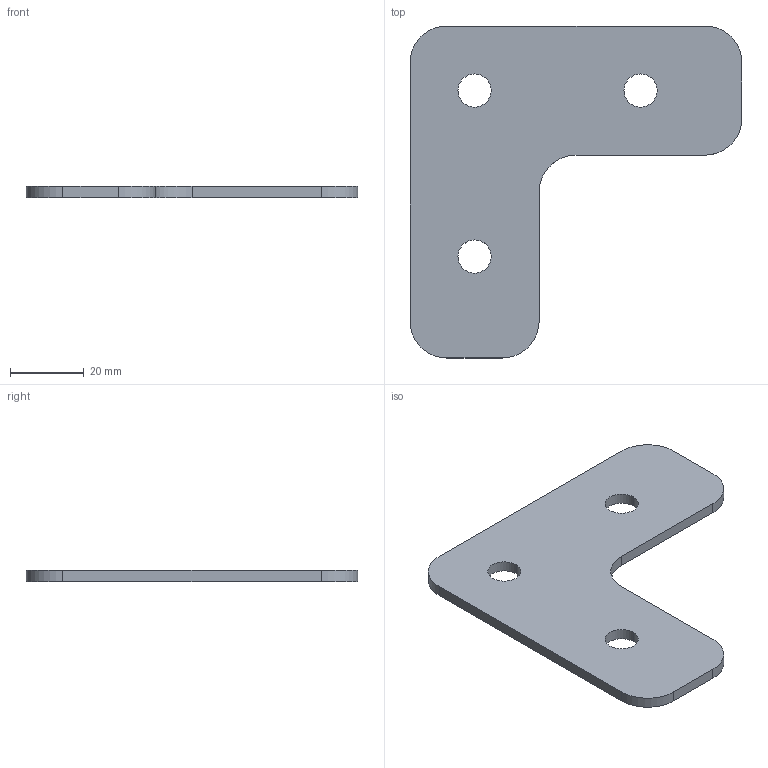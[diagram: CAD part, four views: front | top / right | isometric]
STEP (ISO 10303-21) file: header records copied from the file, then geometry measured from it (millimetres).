
FILE_DESCRIPTION (( 'STEP AP214' ), '1' );
FILE_NAME ('1285.001.101.STEP', '2019-05-23T15:26:20', ( '' ), ( '' ), 'SwSTEP 2.0', 'SolidWorks 2018', '' );
FILE_SCHEMA (( 'AUTOMOTIVE_DESIGN' ));
Length unit declared in the file: millimetre
Products named in the file (1): 1285.001.101
Bounding box: 90 x 90 x 3 mm (x, y, z)
Volume: 14394.9 mm3; surface area: 10853.8 mm2
Topology: 1 solids, 1 shells, 20 faces, 54 edges, 36 vertices
Faces by surface type: cylinder 12, plane 8
Entity records: 688 total; most frequent: DIRECTION 120, CARTESIAN_POINT 111, ORIENTED_EDGE 108, EDGE_CURVE 54, AXIS2_PLACEMENT_3D 45, VERTEX_POINT 36, VECTOR 30, LINE 30
